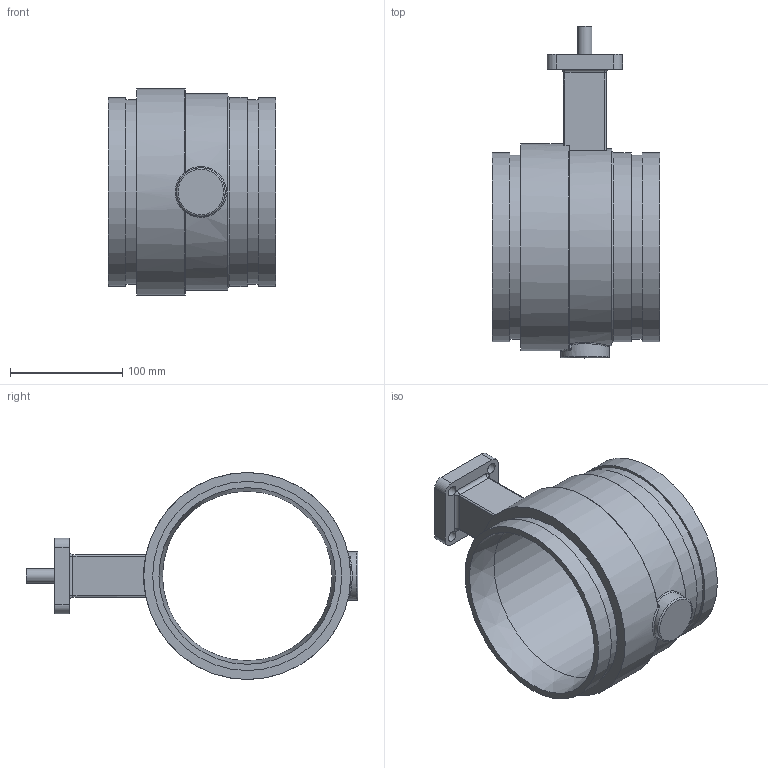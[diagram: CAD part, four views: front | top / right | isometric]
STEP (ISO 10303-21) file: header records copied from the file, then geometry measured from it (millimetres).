
FILE_DESCRIPTION(/* description */ ('Vic Series 461 Vic-300 MasterSeal SS Butterfly Valve','CAx-IF Rec.Pracs.---Representation and Presentation of Product Manufacturing Information (PMI)---4.0---2014-10-13'),/* implementation_level */ '2;1');
FILE_NAME(/* name */ 'C:\Users\kkamble\AppData\Roaming\Autodesk\ApplicationPlugins\Back Up\Victaulic_SS-OGS_Valve Butterfly Vic-300 Masterseal Bare_Series 461 (OGS)\Victaulic_SS-OGS_Valve Butterfly Vic-300 Masterseal Bare_Series 461 (OGS)_6 (150).stp',/* time_stamp */ '2020-09-02T14:48:33+05:00',/* author */ ('mchristi'),/* organization */ ('Victaulic'),/* preprocessor_version */ 'ST-DEVELOPER v17.2',/* originating_system */ 'Autodesk Inventor 2019',/* authorisation */ '');
FILE_SCHEMA (('AP242_MANAGED_MODEL_BASED_3D_ENGINEERING_MIM_LF { 1 0 10303 442 1 1 4 }'));
Length unit declared in the file: inch
Products named in the file (1): 461-06.0
Bounding box: 149.35 x 295.4 x 184.15 mm (x, y, z)
Volume: 1019657.9 mm3; surface area: 195173 mm2
Topology: 1 solids, 1 shells, 88 faces, 217 edges, 137 vertices
Faces by surface type: cylinder 35, plane 22, bspline 14, torus 13, sphere 2, cone 2
Full cylindrical faces by diameter (mm): 9.652 x4, 12.7 x1, 43.18 x1, 54.102 x1, 150.876 x1, 163.957 x2, 168.275 x3, 175.26 x1, 184.15 x1
Entity records: 3532 total; most frequent: CARTESIAN_POINT 1228, DIRECTION 479, ORIENTED_EDGE 430, EDGE_CURVE 215, AXIS2_PLACEMENT_3D 207, VERTEX_POINT 137, CIRCLE 119, EDGE_LOOP 106
